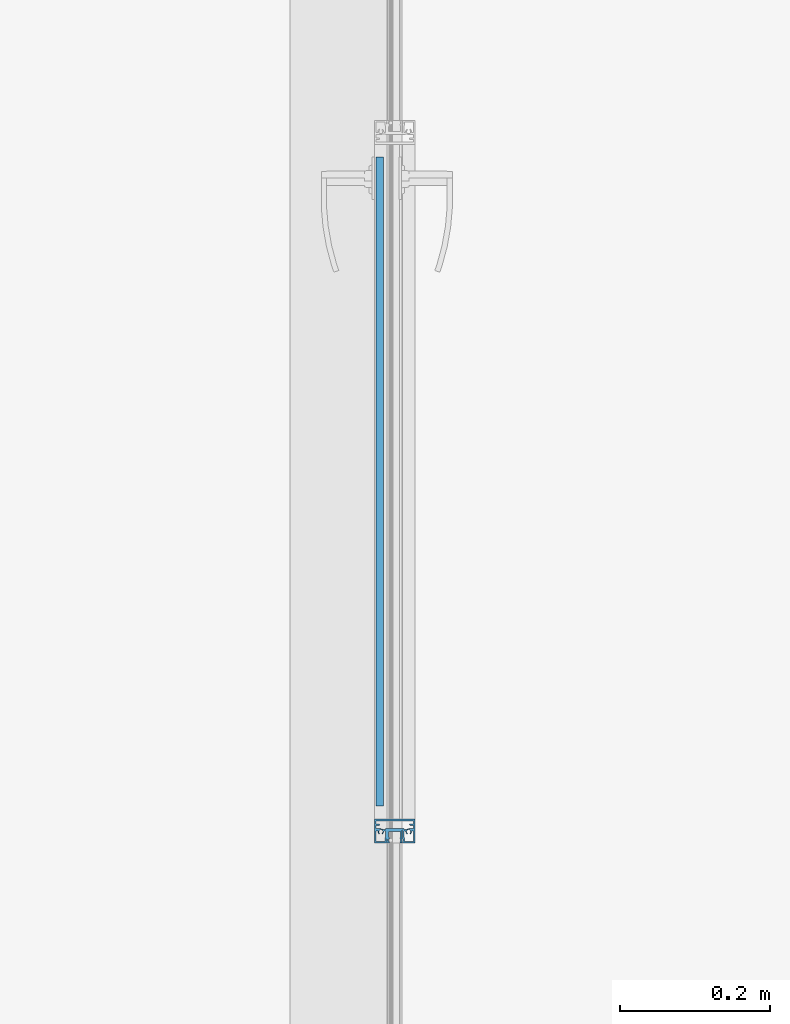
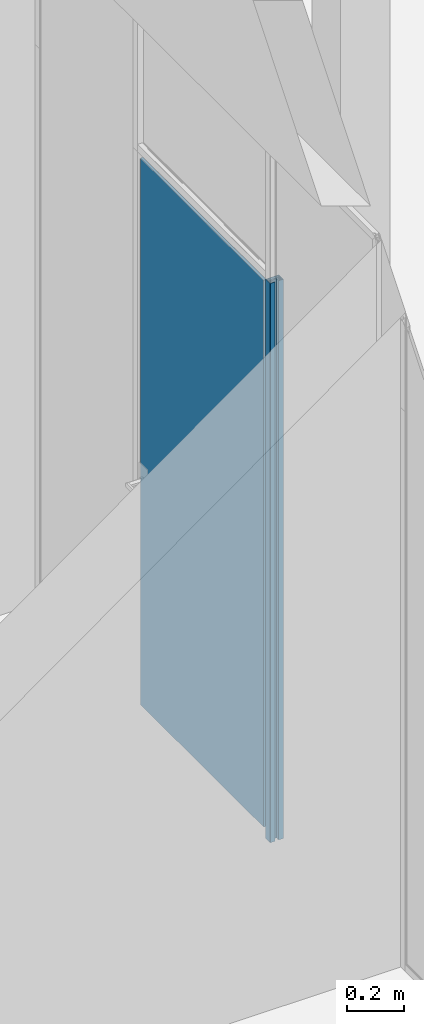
# One storey, part 98 of 387: 2 building element parts, 3 elements without a shape of their own.
"""IFC2X3 building model written with IfcOpenShell, lengths in millimetres."""

from ifc_helpers import new_model, entity, si_unit, converted_unit, derived_unit, money_unit, direction, frame, origin_with_axes, place, context, subcontext, project, spatial, faceted_brep, source, transform, mapped, material, type_object, element, aggregate, save


model = new_model("IFC2X3")

# Units and contexts
model_context = context("Model", 3, precision=0.01, world=origin_with_axes(), true_north=direction((0.0, 1.0)))
body_context = subcontext(model_context, "Body", "Model", "MODEL_VIEW")
ifc_project = project(units=[si_unit("LENGTHUNIT", "METRE", prefix="MILLI"), si_unit("AREAUNIT", "SQUARE_METRE"), si_unit("VOLUMEUNIT", "CUBIC_METRE"), converted_unit("PLANEANGLEUNIT", "DEGREE", entity("IfcPlaneAngleMeasure", 0.0174532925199), si_unit("PLANEANGLEUNIT", "RADIAN"), dimensions=[0, 0, 0, 0, 0, 0, 0]), si_unit("SOLIDANGLEUNIT", "STERADIAN"), money_unit("EUR"), converted_unit("TIMEUNIT", "Year", entity("IfcTimeMeasure", 31556926.0), si_unit("TIMEUNIT", "SECOND"), dimensions=[0, 0, 1, 0, 0, 0, 0]), si_unit("MASSUNIT", "GRAM", prefix="KILO"), si_unit("THERMODYNAMICTEMPERATUREUNIT", "DEGREE_CELSIUS"), si_unit("LUMINOUSINTENSITYUNIT", "LUMEN"), si_unit("ENERGYUNIT", "JOULE", prefix="MEGA"), derived_unit("THERMALCONDUCTANCEUNIT", [(si_unit("POWERUNIT", "WATT"), 1), (si_unit("LENGTHUNIT", "METRE"), -1), (si_unit("THERMODYNAMICTEMPERATUREUNIT", "KELVIN"), -1)]), derived_unit("SPECIFICHEATCAPACITYUNIT", [(si_unit("ENERGYUNIT", "JOULE"), 1), (si_unit("MASSUNIT", "GRAM", prefix="KILO"), -1), (si_unit("THERMODYNAMICTEMPERATUREUNIT", "KELVIN"), -1)]), derived_unit("MASSDENSITYUNIT", [(si_unit("MASSUNIT", "GRAM", prefix="KILO"), 1), (si_unit("VOLUMEUNIT", "CUBIC_METRE"), -1)])], contexts=[model_context])

# Site, building, storey
site_placement = place(None, origin_with_axes())
site = spatial("IfcSite", under=ifc_project, at=site_placement, Name="Puškini 31, Narva", CompositionType="ELEMENT")
building_placement = place(site_placement, origin_with_axes())
building = spatial("IfcBuilding", under=site, at=building_placement, Name="Narva Riigigümnaasium", CompositionType="ELEMENT")
storey_placement = place(building_placement, frame((0.0, 0.0, 2640.0), z_axis=(0.0, 0.0, 1.0), x_axis=(1.0, 0.0, 0.0)))
storey = spatial("IfcBuildingStorey", under=building, at=storey_placement, Name="2.korrus +2.64", CompositionType="ELEMENT", Elevation=2640.0)

# Curtain wall, member, building element parts, door
curtain_wall_type = type_object("IfcCurtainWallType", Name="Curtain Wall Type", PredefinedType="NOTDEFINED")
curtain_wall_placement = place(storey_placement, frame((28390.0000001, 185629.946958, -0.000112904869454), z_axis=(0.0, 0.0, 1.0), x_axis=(1.0, 0.0, 0.0)))
curtain_wall = element("IfcCurtainWall", 1, at=curtain_wall_placement, inside=storey, type_object=curtain_wall_type, Name="G-SKLF-20")
member_type = type_object("IfcMemberType", Name="32 x 17", PredefinedType="MULLION")
member_placement = place(curtain_wall_placement, frame((0.0, -450.0, 0.0), z_axis=(0.0, 0.0, 1.0), x_axis=(0.0, -1.0, 0.0)))
member = element("IfcMember", 2, at=member_placement, type_object=member_type, Name="G-SKLF-29-raam", ObjectType="MULLION")
ifc_material_1 = material(Name="ET-04_Alumiinium")
shared_shape_1 = source(origin_with_axes(), body_context, "Body", "Brep", [
    faceted_brep([(-31.7500000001, 26.9330127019, 0.0), (-31.7500000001, 26.9330127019, 2400.00000477), (0.0, 27.0, 2400.00000477), (0.0, 27.0, 0.0), (-31.933012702, 26.75, 0.0), (-31.933012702, 26.75, 2400.00000477), (-32.0000000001, 26.5, 2400.00000477), (-32.0, 10.7, 2400.00000477), (-31.9330127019, 10.45, 2400.00000477), (-31.75, 10.2669872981, 2400.00000477), (-31.5, 10.2, 2400.00000477), (-30.7, 10.2, 2400.00000477), (-30.6, 10.2267949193, 2400.00000477), (-30.5267949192, 10.3, 2400.00000477), (-30.5, 10.4, 2400.00000477), (-30.5, 11.0, 2400.00000477), (-30.4732050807, 11.1, 2400.00000477), (-30.4, 11.1732050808, 2400.00000477), (-30.3, 11.2, 2400.00000477), (-27.2, 11.2, 2400.00000477), (-27.1, 11.1732050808, 2400.00000477), (-27.0267949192, 11.1, 2400.00000477), (-27.0, 11.0, 2400.00000477), (-27.0, 10.4, 2400.00000477), (-26.9732050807, 10.3, 2400.00000477), (-26.9, 10.2267949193, 2400.00000477), (-26.8, 10.2, 2400.00000477), (-15.0, 10.2, 2400.00000477), (-15.0, 9.79999999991, 2400.00000477), (-15.0, -9.80000000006, 2400.00000477), (-15.0, -10.2, 2400.00000477), (-26.7999999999, -10.2000000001, 2400.00000477), (-26.8999999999, -10.2267949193, 2400.00000477), (-26.9732050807, -10.3000000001, 2400.00000477), (-27.0, -10.4000000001, 2400.00000477), (-27.0, -11.0, 2400.00000477), (-27.0267949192, -11.1, 2400.00000477), (-27.1, -11.1732050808, 2400.00000477), (-27.2, -11.2, 2400.00000477), (-30.3, -11.2, 2400.00000477), (-30.4, -11.1732050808, 2400.00000477), (-30.4732050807, -11.1, 2400.00000477), (-30.5, -11.0, 2400.00000477), (-30.5, -10.4, 2400.00000477), (-30.5267949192, -10.3, 2400.00000477), (-30.6, -10.2267949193, 2400.00000477), (-30.7, -10.2, 2400.00000477), (-31.5, -10.2, 2400.00000477), (-31.75, -10.2669872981, 2400.00000477), (-31.9330127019, -10.45, 2400.00000477), (-32.0, -10.7000000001, 2400.00000477), (-32.0, -26.5, 2400.00000477), (-31.9330127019, -26.75, 2400.00000477), (-31.75, -26.9330127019, 2400.00000477), (-31.5, -27.0, 2400.00000477), (0.0, -27.0, 2400.00000477), (-3.0, -25.0, 2400.00000477), (-6.6, -25.0, 2400.00000477), (-6.6, -20.5, 2400.00000477), (-6.66698729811, -20.25, 2400.00000477), (-6.85, -20.0669872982, 2400.00000477), (-7.1, -20.0000000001, 2400.00000477), (-8.09999999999, -20.0, 2400.00000477), (-8.34999999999, -20.0669872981, 2400.00000477), (-8.53301270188, -20.25, 2400.00000477), (-8.59999999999, -20.5, 2400.00000477), (-8.59999999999, -25.0, 2400.00000477), (-13.0, -25.0, 2400.00000477), (-13.0, -18.6, 2400.00000477), (-13.8901098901, -16.0667028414, 2400.00000477), (-14.0, -15.7539501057, 2400.00000477), (-14.0, -12.2, 2400.00000477), (-13.0, -12.2, 2400.00000477), (-13.0, 12.2, 2400.00000477), (-14.0, 12.2, 2400.00000477), (-14.0, 15.7539501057, 2400.00000477), (-13.8901098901, 16.0667028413, 2400.00000477), (-13.0, 18.6, 2400.00000477), (-13.0, 25.0, 2400.00000477), (-8.59999999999, 25.0, 2400.00000477), (-8.59999999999, 20.5, 2400.00000477), (-8.53301270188, 20.25, 2400.00000477), (-8.34999999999, 20.0669872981, 2400.00000477), (-8.09999999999, 20.0, 2400.00000477), (-7.1, 20.0, 2400.00000477), (-6.85, 20.0669872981, 2400.00000477), (-6.6669872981, 20.25, 2400.00000477), (-6.6, 20.5, 2400.00000477), (-6.6, 25.0, 2400.00000477), (-3.0, 25.0, 2400.00000477), (-19.476186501, -20.1957226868, 2400.00000477), (-19.7983760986, -20.2065593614, 2400.00000477), (-20.0757343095, -20.3708639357, 2400.00000477), (-20.2400388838, -20.6482221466, 2400.00000477), (-20.2508755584, -20.9704117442, 2400.00000477), (-20.1055788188, -21.2581832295, 2400.00000477), (-18.2324976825, -22.4735254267, 2400.00000477), (-16.0, -22.5115214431, 2400.00000477), (-16.0, -25.0, 2400.00000477), (-29.4999999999, -25.0, 2400.00000477), (-29.7499999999, -24.9330127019, 2400.00000477), (-29.9330127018, -24.75, 2400.00000477), (-29.9999999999, -24.5, 2400.00000477), (-30.0, -13.2, 2400.00000477), (-25.5, -13.2, 2400.00000477), (-25.25, -13.1330127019, 2400.00000477), (-25.0669872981, -12.95, 2400.00000477), (-25.0, -12.7, 2400.00000477), (-25.0, -12.2, 2400.00000477), (-16.0, -12.2, 2400.00000477), (-16.0, -14.0833640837, 2400.00000477), (-16.0774356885, -14.3506455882, 2400.00000477), (-16.2857576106, -14.5351385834, 2400.00000477), (-16.5604395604, -14.5796977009, 2400.00000477), (-18.5025683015, -14.8194517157, 2400.00000477), (-20.1055788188, -15.9418167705, 2400.00000477), (-20.2539421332, -16.2300731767, 2400.00000477), (-20.2446330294, -16.5541360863, 2400.00000477), (-20.0799669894, -16.8334003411, 2400.00000477), (-19.8009019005, -16.9984036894, 2400.00000477), (-19.4768504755, -17.0081043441, 2400.00000477), (-19.1884150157, -16.8600894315, 2400.00000477), (-17.9594363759, -15.9748438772, 2400.00000477), (-16.4491363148, -15.8606426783, 2400.00000477), (-15.101017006, -16.5510212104, 2400.00000477), (-14.3109559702, -17.8432486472, 2400.00000477), (-14.3109559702, -19.3578602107, 2400.00000477), (-15.101017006, -20.6500876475, 2400.00000477), (-16.4491363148, -21.3404661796, 2400.00000477), (-17.9594363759, -21.2262649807, 2400.00000477), (-19.4040597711, 16.9891590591, 2400.00000477), (-19.7431334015, 17.0156698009, 2400.00000477), (-20.0491908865, 16.8673371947, 2400.00000477), (-20.2384633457, 16.5847603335, 2400.00000477), (-20.2591463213, 16.2452813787, 2400.00000477), (-20.1055788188, 15.9418167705, 2400.00000477), (-18.5025683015, 14.8194517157, 2400.00000477), (-16.5604395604, 14.5796977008, 2400.00000477), (-16.2857576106, 14.5351385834, 2400.00000477), (-16.0774356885, 14.3506455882, 2400.00000477), (-16.0, 14.0833640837, 2400.00000477), (-16.0, 12.2, 2400.00000477), (-25.0, 12.2, 2400.00000477), (-25.0, 12.7, 2400.00000477), (-25.0669872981, 12.95, 2400.00000477), (-25.25, 13.1330127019, 2400.00000477), (-25.5, 13.2, 2400.00000477), (-30.0, 13.2, 2400.00000477), (-30.0, 24.5, 2400.00000477), (-29.9330127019, 24.75, 2400.00000477), (-29.75, 24.9330127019, 2400.00000477), (-29.5, 25.0, 2400.00000477), (-16.0, 25.0, 2400.00000477), (-16.0, 22.5115214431, 2400.00000477), (-18.2324976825, 22.4735254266, 2400.00000477), (-20.1055788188, 21.2581832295, 2400.00000477), (-20.2586063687, 20.9548173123, 2400.00000477), (-20.2376817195, 20.6156853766, 2400.00000477), (-20.0485211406, 20.3334326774, 2400.00000477), (-19.7428001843, 20.185166, 2400.00000477), (-19.4040367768, 20.2113893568, 2400.00000477), (-19.1247754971, 20.4049389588, 2400.00000477), (-17.9010883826, 21.2200171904, 2400.00000477), (-16.4324884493, 21.290564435, 2400.00000477), (-15.1363081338, 20.5965332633, 2400.00000477), (-14.3808833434, 19.3351466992, 2400.00000477), (-14.3808833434, 17.8648533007, 2400.00000477), (-15.1363081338, 16.6034667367, 2400.00000477), (-16.4324884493, 15.9094355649, 2400.00000477), (-17.9010883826, 15.9799828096, 2400.00000477), (0.0, -27.0, 0.0), (-31.5, -27.0, 0.0), (-31.75, -26.9330127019, 0.0), (-31.9330127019, -26.75, 0.0), (-32.0, -26.5, 0.0), (-32.0, -10.7000000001, 0.0), (-31.9330127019, -10.45, 0.0), (-31.75, -10.2669872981, 0.0), (-31.5, -10.2, 0.0), (-30.7, -10.2, 0.0), (-30.6, -10.2267949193, 0.0), (-30.5267949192, -10.3, 0.0), (-30.5, -10.4, 0.0), (-30.5, -11.0, 0.0), (-30.4732050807, -11.1, 0.0), (-30.4, -11.1732050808, 0.0), (-30.3, -11.2, 0.0), (-27.2, -11.2, 0.0), (-27.1, -11.1732050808, 0.0), (-27.0267949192, -11.1, 0.0), (-27.0, -11.0, 0.0), (-27.0, -10.4000000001, 0.0), (-26.9732050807, -10.3000000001, 0.0), (-26.8999999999, -10.2267949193, 0.0), (-26.7999999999, -10.2000000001, 0.0), (-15.0, -10.2, 0.0), (-15.0, -9.80000000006, 0.0), (-15.0, 9.79999999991, 0.0), (-15.0, 10.2, 0.0), (-26.8, 10.2, 0.0), (-26.9, 10.2267949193, 0.0), (-26.9732050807, 10.3, 0.0), (-27.0, 10.4, 0.0), (-27.0, 11.0, 0.0), (-27.0267949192, 11.1, 0.0), (-27.1, 11.1732050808, 0.0), (-27.2, 11.2, 0.0), (-30.3, 11.2, 0.0), (-30.4, 11.1732050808, 0.0), (-30.4732050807, 11.1, 0.0), (-30.5, 11.0, 0.0), (-30.5, 10.4, 0.0), (-30.5267949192, 10.3, 0.0), (-30.6, 10.2267949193, 0.0), (-30.7, 10.2, 0.0), (-31.5, 10.2, 0.0), (-31.75, 10.2669872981, 0.0), (-31.9330127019, 10.45, 0.0), (-32.0, 10.7, 0.0), (-32.0000000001, 26.5, 0.0), (-3.0, -25.0, 0.0), (-3.0, 25.0, 0.0), (-6.6, 25.0, 0.0), (-6.6, 20.5, 0.0), (-6.6669872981, 20.25, 0.0), (-6.85, 20.0669872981, 0.0), (-7.1, 20.0, 0.0), (-8.09999999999, 20.0, 0.0), (-8.34999999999, 20.0669872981, 0.0), (-8.53301270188, 20.25, 0.0), (-8.59999999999, 20.5, 0.0), (-8.59999999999, 25.0, 0.0), (-13.0, 25.0, 0.0), (-13.0, 18.6, 0.0), (-13.8901098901, 16.0667028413, 0.0), (-14.0, 15.7539501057, 0.0), (-14.0, 12.2, 0.0), (-13.0, 12.2, 0.0), (-13.0, -12.2, 0.0), (-14.0, -12.2, 0.0), (-14.0, -15.7539501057, 0.0), (-13.8901098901, -16.0667028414, 0.0), (-13.0, -18.6, 0.0), (-13.0, -25.0, 0.0), (-8.59999999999, -25.0, 0.0), (-8.59999999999, -20.5, 0.0), (-8.53301270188, -20.25, 0.0), (-8.34999999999, -20.0669872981, 0.0), (-8.09999999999, -20.0, 0.0), (-7.1, -20.0000000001, 0.0), (-6.85, -20.0669872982, 0.0), (-6.66698729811, -20.25, 0.0), (-6.6, -20.5, 0.0), (-6.6, -25.0, 0.0), (-19.476186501, -20.1957226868, 0.0), (-17.9594363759, -21.2262649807, 0.0), (-16.4491363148, -21.3404661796, 0.0), (-15.101017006, -20.6500876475, 0.0), (-14.3109559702, -19.3578602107, 0.0), (-14.3109559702, -17.8432486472, 0.0), (-15.101017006, -16.5510212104, 0.0), (-16.4491363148, -15.8606426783, 0.0), (-17.9594363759, -15.9748438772, 0.0), (-19.1884150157, -16.8600894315, 0.0), (-19.4768504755, -17.0081043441, 0.0), (-19.8009019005, -16.9984036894, 0.0), (-20.0799669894, -16.8334003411, 0.0), (-20.2446330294, -16.5541360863, 0.0), (-20.2539421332, -16.2300731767, 0.0), (-20.1055788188, -15.9418167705, 0.0), (-18.5025683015, -14.8194517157, 0.0), (-16.5604395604, -14.5796977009, 0.0), (-16.2857576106, -14.5351385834, 0.0), (-16.0774356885, -14.3506455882, 0.0), (-16.0, -14.0833640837, 0.0), (-16.0, -12.2, 0.0), (-25.0, -12.2, 0.0), (-25.0, -12.7, 0.0), (-25.0669872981, -12.95, 0.0), (-25.25, -13.1330127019, 0.0), (-25.5, -13.2, 0.0), (-30.0, -13.2, 0.0), (-29.9999999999, -24.5, 0.0), (-29.9330127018, -24.75, 0.0), (-29.7499999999, -24.9330127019, 0.0), (-29.4999999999, -25.0, 0.0), (-16.0, -25.0, 0.0), (-16.0, -22.5115214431, 0.0), (-18.2324976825, -22.4735254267, 0.0), (-20.1055788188, -21.2581832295, 0.0), (-20.2508755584, -20.9704117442, 0.0), (-20.2400388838, -20.6482221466, 0.0), (-20.0757343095, -20.3708639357, 0.0), (-19.7983760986, -20.2065593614, 0.0), (-19.4040597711, 16.9891590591, 0.0), (-17.9010883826, 15.9799828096, 0.0), (-16.4324884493, 15.9094355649, 0.0), (-15.1363081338, 16.6034667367, 0.0), (-14.3808833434, 17.8648533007, 0.0), (-14.3808833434, 19.3351466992, 0.0), (-15.1363081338, 20.5965332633, 0.0), (-16.4324884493, 21.290564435, 0.0), (-17.9010883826, 21.2200171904, 0.0), (-19.1247754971, 20.4049389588, 0.0), (-19.4040367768, 20.2113893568, 0.0), (-19.7428001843, 20.185166, 0.0), (-20.0485211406, 20.3334326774, 0.0), (-20.2376817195, 20.6156853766, 0.0), (-20.2586063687, 20.9548173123, 0.0), (-20.1055788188, 21.2581832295, 0.0), (-18.2324976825, 22.4735254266, 0.0), (-16.0, 22.5115214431, 0.0), (-16.0, 25.0, 0.0), (-29.5, 25.0, 0.0), (-29.75, 24.9330127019, 0.0), (-29.9330127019, 24.75, 0.0), (-30.0, 24.5, 0.0), (-30.0, 13.2, 0.0), (-25.5, 13.2, 0.0), (-25.25, 13.1330127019, 0.0), (-25.0669872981, 12.95, 0.0), (-25.0, 12.7, 0.0), (-25.0, 12.2, 0.0), (-16.0, 12.2, 0.0), (-16.0, 14.0833640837, 0.0), (-16.0774356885, 14.3506455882, 0.0), (-16.2857576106, 14.5351385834, 0.0), (-16.5604395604, 14.5796977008, 0.0), (-18.5025683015, 14.8194517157, 0.0), (-20.1055788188, 15.9418167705, 0.0), (-20.2591463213, 16.2452813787, 0.0), (-20.2384633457, 16.5847603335, 0.0), (-20.0491908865, 16.8673371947, 0.0), (-19.7431334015, 17.0156698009, 0.0)], [[[0, 1, 2, 3]], [[4, 5, 1, 0]], [[1, 5, 6, 7, 8, 9, 10, 11, 12, 13, 14, 15, 16, 17, 18, 19, 20, 21, 22, 23, 24, 25, 26, 27, 28, 29, 30, 31, 32, 33, 34, 35, 36, 37, 38, 39, 40, 41, 42, 43, 44, 45, 46, 47, 48, 49, 50, 51, 52, 53, 54, 55, 2], [56, 57, 58, 59, 60, 61, 62, 63, 64, 65, 66, 67, 68, 69, 70, 71, 72, 73, 74, 75, 76, 77, 78, 79, 80, 81, 82, 83, 84, 85, 86, 87, 88, 89], [90, 91, 92, 93, 94, 95, 96, 97, 98, 99, 100, 101, 102, 103, 104, 105, 106, 107, 108, 109, 110, 111, 112, 113, 114, 115, 116, 117, 118, 119, 120, 121, 122, 123, 124, 125, 126, 127, 128, 129], [130, 131, 132, 133, 134, 135, 136, 137, 138, 139, 140, 141, 142, 143, 144, 145, 146, 147, 148, 149, 150, 151, 152, 153, 154, 155, 156, 157, 158, 159, 160, 161, 162, 163, 164, 165, 166, 167, 168, 169]], [[3, 2, 55, 170]], [[0, 3, 170, 171, 172, 173, 174, 175, 176, 177, 178, 179, 180, 181, 182, 183, 184, 185, 186, 187, 188, 189, 190, 191, 192, 193, 194, 195, 196, 197, 198, 199, 200, 201, 202, 203, 204, 205, 206, 207, 208, 209, 210, 211, 212, 213, 214, 215, 216, 217, 218, 219, 4], [220, 221, 222, 223, 224, 225, 226, 227, 228, 229, 230, 231, 232, 233, 234, 235, 236, 237, 238, 239, 240, 241, 242, 243, 244, 245, 246, 247, 248, 249, 250, 251, 252, 253], [254, 255, 256, 257, 258, 259, 260, 261, 262, 263, 264, 265, 266, 267, 268, 269, 270, 271, 272, 273, 274, 275, 276, 277, 278, 279, 280, 281, 282, 283, 284, 285, 286, 287, 288, 289, 290, 291, 292, 293], [294, 295, 296, 297, 298, 299, 300, 301, 302, 303, 304, 305, 306, 307, 308, 309, 310, 311, 312, 313, 314, 315, 316, 317, 318, 319, 320, 321, 322, 323, 324, 325, 326, 327, 328, 329, 330, 331, 332, 333]], [[219, 6, 5, 4]], [[218, 7, 6, 219]], [[217, 8, 7, 218]], [[216, 9, 8, 217]], [[215, 10, 9, 216]], [[214, 11, 10, 215]], [[213, 12, 11, 214]], [[212, 13, 12, 213]], [[211, 14, 13, 212]], [[210, 15, 14, 211]], [[209, 16, 15, 210]], [[208, 17, 16, 209]], [[207, 18, 17, 208]], [[206, 19, 18, 207]], [[205, 20, 19, 206]], [[204, 21, 20, 205]], [[203, 22, 21, 204]], [[202, 23, 22, 203]], [[201, 24, 23, 202]], [[200, 25, 24, 201]], [[199, 26, 25, 200]], [[198, 27, 26, 199]], [[197, 28, 27, 198]], [[196, 29, 28, 197]], [[195, 30, 29, 196]], [[194, 31, 30, 195]], [[193, 32, 31, 194]], [[192, 33, 32, 193]], [[191, 34, 33, 192]], [[190, 35, 34, 191]], [[189, 36, 35, 190]], [[188, 37, 36, 189]], [[187, 38, 37, 188]], [[186, 39, 38, 187]], [[185, 40, 39, 186]], [[184, 41, 40, 185]], [[183, 42, 41, 184]], [[182, 43, 42, 183]], [[181, 44, 43, 182]], [[180, 45, 44, 181]], [[179, 46, 45, 180]], [[178, 47, 46, 179]], [[177, 48, 47, 178]], [[176, 49, 48, 177]], [[175, 50, 49, 176]], [[174, 51, 50, 175]], [[173, 52, 51, 174]], [[172, 53, 52, 173]], [[171, 54, 53, 172]], [[170, 55, 54, 171]], [[253, 57, 56, 220]], [[252, 58, 57, 253]], [[251, 59, 58, 252]], [[250, 60, 59, 251]], [[249, 61, 60, 250]], [[248, 62, 61, 249]], [[247, 63, 62, 248]], [[246, 64, 63, 247]], [[245, 65, 64, 246]], [[244, 66, 65, 245]], [[243, 67, 66, 244]], [[242, 68, 67, 243]], [[241, 69, 68, 242]], [[240, 70, 69, 241]], [[239, 71, 70, 240]], [[238, 72, 71, 239]], [[237, 73, 72, 238]], [[236, 74, 73, 237]], [[235, 75, 74, 236]], [[234, 76, 75, 235]], [[233, 77, 76, 234]], [[232, 78, 77, 233]], [[231, 79, 78, 232]], [[230, 80, 79, 231]], [[229, 81, 80, 230]], [[228, 82, 81, 229]], [[227, 83, 82, 228]], [[226, 84, 83, 227]], [[225, 85, 84, 226]], [[224, 86, 85, 225]], [[223, 87, 86, 224]], [[222, 88, 87, 223]], [[221, 89, 88, 222]], [[220, 56, 89, 221]], [[293, 91, 90, 254]], [[292, 92, 91, 293]], [[291, 93, 92, 292]], [[290, 94, 93, 291]], [[289, 95, 94, 290]], [[288, 96, 95, 289]], [[287, 97, 96, 288]], [[286, 98, 97, 287]], [[285, 99, 98, 286]], [[284, 100, 99, 285]], [[283, 101, 100, 284]], [[282, 102, 101, 283]], [[281, 103, 102, 282]], [[280, 104, 103, 281]], [[279, 105, 104, 280]], [[278, 106, 105, 279]], [[277, 107, 106, 278]], [[276, 108, 107, 277]], [[275, 109, 108, 276]], [[274, 110, 109, 275]], [[273, 111, 110, 274]], [[272, 112, 111, 273]], [[271, 113, 112, 272]], [[270, 114, 113, 271]], [[269, 115, 114, 270]], [[268, 116, 115, 269]], [[267, 117, 116, 268]], [[266, 118, 117, 267]], [[265, 119, 118, 266]], [[264, 120, 119, 265]], [[263, 121, 120, 264]], [[262, 122, 121, 263]], [[261, 123, 122, 262]], [[260, 124, 123, 261]], [[259, 125, 124, 260]], [[258, 126, 125, 259]], [[257, 127, 126, 258]], [[256, 128, 127, 257]], [[255, 129, 128, 256]], [[254, 90, 129, 255]], [[333, 131, 130, 294]], [[332, 132, 131, 333]], [[331, 133, 132, 332]], [[330, 134, 133, 331]], [[329, 135, 134, 330]], [[328, 136, 135, 329]], [[327, 137, 136, 328]], [[326, 138, 137, 327]], [[325, 139, 138, 326]], [[324, 140, 139, 325]], [[323, 141, 140, 324]], [[322, 142, 141, 323]], [[321, 143, 142, 322]], [[320, 144, 143, 321]], [[319, 145, 144, 320]], [[318, 146, 145, 319]], [[317, 147, 146, 318]], [[316, 148, 147, 317]], [[315, 149, 148, 316]], [[314, 150, 149, 315]], [[313, 151, 150, 314]], [[312, 152, 151, 313]], [[311, 153, 152, 312]], [[310, 154, 153, 311]], [[309, 155, 154, 310]], [[308, 156, 155, 309]], [[307, 157, 156, 308]], [[306, 158, 157, 307]], [[305, 159, 158, 306]], [[304, 160, 159, 305]], [[303, 161, 160, 304]], [[302, 162, 161, 303]], [[301, 163, 162, 302]], [[300, 164, 163, 301]], [[299, 165, 164, 300]], [[298, 166, 165, 299]], [[297, 167, 166, 298]], [[296, 168, 167, 297]], [[295, 169, 168, 296]], [[294, 130, 169, 295]]]),
    faceted_brep([(-15.0267949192, 9.89999999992, 0.0), (-15.0267949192, 9.89999999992, 2400.00000477), (-15.0, -9.80000000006, 2400.00000477), (-15.0, -9.80000000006, 0.0), (-15.1, 9.97320508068, 0.0), (-15.1, 9.97320508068, 2400.00000477), (-15.2, 9.99999999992, 2400.00000477), (-31.5, 9.99999999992, 2400.00000477), (-31.75, 9.93301270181, 2400.00000477), (-31.9330127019, 9.74999999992, 2400.00000477), (-32.0, 9.49999999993, 2400.00000477), (-32.0, 7.49999999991, 2400.00000477), (-31.9330127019, 7.24999999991, 2400.00000477), (-31.75, 7.06698729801, 2400.00000477), (-31.5, 6.99999999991, 2400.00000477), (-30.7, 6.99999999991, 2400.00000477), (-30.6, 7.02679491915, 2400.00000477), (-30.5267949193, 7.09999999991, 2400.00000477), (-30.5, 7.19999999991, 2400.00000477), (-30.5, 7.79999999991, 2400.00000477), (-30.4732050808, 7.89999999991, 2400.00000477), (-30.4, 7.97320508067, 2400.00000477), (-30.3, 7.99999999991, 2400.00000477), (-27.2, 7.99999999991, 2400.00000477), (-27.1, 7.97320508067, 2400.00000477), (-27.0267949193, 7.89999999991, 2400.00000477), (-27.0, 7.7999999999, 2400.00000477), (-27.0, 7.14458303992, 2400.00000477), (-27.0, 6.99999999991, 2400.00000477), (-26.856872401, 6.99999999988, 2400.00000477), (-25.0092559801, 6.99999999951, 2400.00000477), (-24.8752813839, 7.49999999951, 2400.00000477), (-24.5092559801, 7.8660254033, 2400.00000477), (-24.0092559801, 7.99999999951, 2400.00000477), (-17.5, 7.99999999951, 2400.00000477), (-17.25, 7.9330127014, 2400.00000477), (-17.0669872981, 7.74999999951, 2400.00000477), (-17.0, 7.4999999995, 2400.00000477), (-17.0, -7.49999999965, 2400.00000477), (-17.0669872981, -7.74999999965, 2400.00000477), (-17.25, -7.93301270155, 2400.00000477), (-17.5, -7.99999999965, 2400.00000477), (-24.0092559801, -7.99999999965, 2400.00000477), (-24.5092559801, -7.86602540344, 2400.00000477), (-24.8752813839, -7.49999999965, 2400.00000477), (-25.0092559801, -6.99999999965, 2400.00000477), (-26.8, -7.0000000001, 2400.00000477), (-26.9, -7.02679491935, 2400.00000477), (-26.9732050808, -7.10000000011, 2400.00000477), (-27.0, -7.20000000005, 2400.00000477), (-27.0, -7.80000000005, 2400.00000477), (-27.0267949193, -7.90000000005, 2400.00000477), (-27.1, -7.97320508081, 2400.00000477), (-27.2, -8.00000000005, 2400.00000477), (-30.3, -8.00000000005, 2400.00000477), (-30.4, -7.97320508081, 2400.00000477), (-30.4732050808, -7.90000000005, 2400.00000477), (-30.5, -7.80000000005, 2400.00000477), (-30.5, -7.20000000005, 2400.00000477), (-30.5267949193, -7.10000000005, 2400.00000477), (-30.6, -7.02679491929, 2400.00000477), (-30.7, -7.00000000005, 2400.00000477), (-31.5, -7.00000000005, 2400.00000477), (-31.75, -7.06698729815, 2400.00000477), (-31.9330127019, -7.25000000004, 2400.00000477), (-32.0, -7.50000000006, 2400.00000477), (-32.0, -9.50000000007, 2400.00000477), (-31.9330127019, -9.75000000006, 2400.00000477), (-31.75, -9.93301270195, 2400.00000477), (-31.5, -10.0000000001, 2400.00000477), (-15.2, -10.0000000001, 2400.00000477), (-15.1, -9.97320508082, 2400.00000477), (-15.0267949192, -9.90000000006, 2400.00000477), (-15.0267949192, -9.90000000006, 0.0), (-15.1, -9.97320508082, 0.0), (-15.2, -10.0000000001, 0.0), (-31.5, -10.0000000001, 0.0), (-31.75, -9.93301270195, 0.0), (-31.9330127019, -9.75000000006, 0.0), (-32.0, -9.50000000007, 0.0), (-32.0, -7.50000000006, 0.0), (-31.9330127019, -7.25000000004, 0.0), (-31.75, -7.06698729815, 0.0), (-31.5, -7.00000000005, 0.0), (-30.7, -7.00000000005, 0.0), (-30.6, -7.02679491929, 0.0), (-30.5267949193, -7.10000000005, 0.0), (-30.5, -7.20000000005, 0.0), (-30.5, -7.80000000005, 0.0), (-30.4732050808, -7.90000000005, 0.0), (-30.4, -7.97320508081, 0.0), (-30.3, -8.00000000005, 0.0), (-27.2, -8.00000000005, 0.0), (-27.1, -7.97320508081, 0.0), (-27.0267949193, -7.90000000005, 0.0), (-27.0, -7.80000000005, 0.0), (-27.0, -7.20000000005, 0.0), (-26.9732050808, -7.10000000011, 0.0), (-26.9, -7.02679491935, 0.0), (-26.8, -7.0000000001, 0.0), (-25.0092559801, -6.99999999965, 0.0), (-24.8752813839, -7.49999999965, 0.0), (-24.5092559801, -7.86602540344, 0.0), (-24.0092559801, -7.99999999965, 0.0), (-17.5, -7.99999999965, 0.0), (-17.25, -7.93301270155, 0.0), (-17.0669872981, -7.74999999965, 0.0), (-17.0, -7.49999999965, 0.0), (-17.0, 7.4999999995, 0.0), (-17.0669872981, 7.74999999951, 0.0), (-17.25, 7.9330127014, 0.0), (-17.5, 7.99999999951, 0.0), (-24.0092559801, 7.99999999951, 0.0), (-24.5092559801, 7.8660254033, 0.0), (-24.8752813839, 7.49999999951, 0.0), (-25.0092559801, 6.99999999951, 0.0), (-26.856872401, 6.99999999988, 0.0), (-27.0, 6.99999999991, 0.0), (-27.0, 7.14458303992, 0.0), (-27.0, 7.7999999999, 0.0), (-27.0267949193, 7.89999999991, 0.0), (-27.1, 7.97320508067, 0.0), (-27.2, 7.99999999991, 0.0), (-30.3, 7.99999999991, 0.0), (-30.4, 7.97320508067, 0.0), (-30.4732050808, 7.89999999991, 0.0), (-30.5, 7.79999999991, 0.0), (-30.5, 7.19999999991, 0.0), (-30.5267949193, 7.09999999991, 0.0), (-30.6, 7.02679491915, 0.0), (-30.7, 6.99999999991, 0.0), (-31.5, 6.99999999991, 0.0), (-31.75, 7.06698729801, 0.0), (-31.9330127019, 7.24999999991, 0.0), (-32.0, 7.49999999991, 0.0), (-32.0, 9.49999999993, 0.0), (-31.9330127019, 9.74999999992, 0.0), (-31.75, 9.93301270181, 0.0), (-31.5, 9.99999999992, 0.0), (-15.2, 9.99999999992, 0.0)], [[[0, 1, 2, 3]], [[4, 5, 1, 0]], [[1, 5, 6, 7, 8, 9, 10, 11, 12, 13, 14, 15, 16, 17, 18, 19, 20, 21, 22, 23, 24, 25, 26, 27, 28, 29, 30, 31, 32, 33, 34, 35, 36, 37, 38, 39, 40, 41, 42, 43, 44, 45, 46, 47, 48, 49, 50, 51, 52, 53, 54, 55, 56, 57, 58, 59, 60, 61, 62, 63, 64, 65, 66, 67, 68, 69, 70, 71, 72, 2]], [[3, 2, 72, 73]], [[0, 3, 73, 74, 75, 76, 77, 78, 79, 80, 81, 82, 83, 84, 85, 86, 87, 88, 89, 90, 91, 92, 93, 94, 95, 96, 97, 98, 99, 100, 101, 102, 103, 104, 105, 106, 107, 108, 109, 110, 111, 112, 113, 114, 115, 116, 117, 118, 119, 120, 121, 122, 123, 124, 125, 126, 127, 128, 129, 130, 131, 132, 133, 134, 135, 136, 137, 138, 139, 4]], [[139, 6, 5, 4]], [[138, 7, 6, 139]], [[137, 8, 7, 138]], [[136, 9, 8, 137]], [[135, 10, 9, 136]], [[134, 11, 10, 135]], [[133, 12, 11, 134]], [[132, 13, 12, 133]], [[131, 14, 13, 132]], [[130, 15, 14, 131]], [[129, 16, 15, 130]], [[128, 17, 16, 129]], [[127, 18, 17, 128]], [[126, 19, 18, 127]], [[125, 20, 19, 126]], [[124, 21, 20, 125]], [[123, 22, 21, 124]], [[122, 23, 22, 123]], [[121, 24, 23, 122]], [[120, 25, 24, 121]], [[119, 26, 25, 120]], [[118, 27, 26, 119]], [[117, 28, 27, 118]], [[116, 29, 28, 117]], [[115, 30, 29, 116]], [[114, 31, 30, 115]], [[113, 32, 31, 114]], [[112, 33, 32, 113]], [[111, 34, 33, 112]], [[110, 35, 34, 111]], [[109, 36, 35, 110]], [[108, 37, 36, 109]], [[107, 38, 37, 108]], [[106, 39, 38, 107]], [[105, 40, 39, 106]], [[104, 41, 40, 105]], [[103, 42, 41, 104]], [[102, 43, 42, 103]], [[101, 44, 43, 102]], [[100, 45, 44, 101]], [[99, 46, 45, 100]], [[98, 47, 46, 99]], [[97, 48, 47, 98]], [[96, 49, 48, 97]], [[95, 50, 49, 96]], [[94, 51, 50, 95]], [[93, 52, 51, 94]], [[92, 53, 52, 93]], [[91, 54, 53, 92]], [[90, 55, 54, 91]], [[89, 56, 55, 90]], [[88, 57, 56, 89]], [[87, 58, 57, 88]], [[86, 59, 58, 87]], [[85, 60, 59, 86]], [[84, 61, 60, 85]], [[83, 62, 61, 84]], [[82, 63, 62, 83]], [[81, 64, 63, 82]], [[80, 65, 64, 81]], [[79, 66, 65, 80]], [[78, 67, 66, 79]], [[77, 68, 67, 78]], [[76, 69, 68, 77]], [[75, 70, 69, 76]], [[74, 71, 70, 75]], [[73, 72, 71, 74]]]),
])
building_element_part_1_placement = place(member_placement, origin_with_axes())
building_element_part_1 = element("IfcBuildingElementPart", 3, at=building_element_part_1_placement, material=ifc_material_1, Name="ET-04_Alumiinium", context=body_context, shape_type="MappedRepresentation", body=[
    mapped(shared_shape_1, transform((0.0, 0.0, 0.0), x_axis=(-1.0, 0.0, 0.0), y_axis=(0.0, -1.0, 0.0), z_axis=(0.0, 0.0, 1.0))),
])
aggregate(member, [building_element_part_1])
door_style = type_object("IfcDoorStyle", Name="868 x 2364 x 20", ConstructionType="NOTDEFINED", OperationType="NOTDEFINED", ParameterTakesPrecedence=False, Sizeable=False)
door_placement = place(curtain_wall_placement, frame((0.0, 0.0, 1200.00000238), z_axis=(0.0, 0.0, 1.0), x_axis=(0.0, -1.0, 0.0)))
door = element("IfcDoor", 4, at=door_placement, type_object=door_style, Name="G-SKLF-21-uks", ObjectType="DOOR")
aggregate(curtain_wall, [door, member])
ifc_material_2 = material(Name="VKR-05_Klaas")
shared_shape_2 = source(origin_with_axes(), body_context, "Body", "Brep", [
    faceted_brep([(-17.0, 37.0000000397, 15.0), (-17.0, 37.0000000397, 25.0), (-883.000001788, 37.0000000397, 25.0), (-883.000001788, 37.0000000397, 15.0), (-17.0, 2383.00000477, 15.0), (-17.0, 2383.00000477, 25.0), (-883.000001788, 2383.00000477, 25.0), (-883.000001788, 2383.00000477, 15.0)], [[[0, 1, 2, 3]], [[4, 5, 1, 0]], [[1, 5, 6, 2]], [[3, 2, 6, 7]], [[0, 3, 7, 4]], [[7, 6, 5, 4]]]),
])
building_element_part_2_placement = place(door_placement, origin_with_axes())
building_element_part_2 = element("IfcBuildingElementPart", 5, at=building_element_part_2_placement, material=ifc_material_2, Name="VKR-05_Klaas", context=body_context, shape_type="MappedRepresentation", body=[
    mapped(shared_shape_2, transform((450.0, 0.0, -1200.00000238), x_axis=(1.0, 0.0, 0.0), y_axis=(0.0, 0.0, 1.0), z_axis=(0.0, -1.0, 0.0))),
])
aggregate(door, [building_element_part_2])

save(model, "model.ifc")
